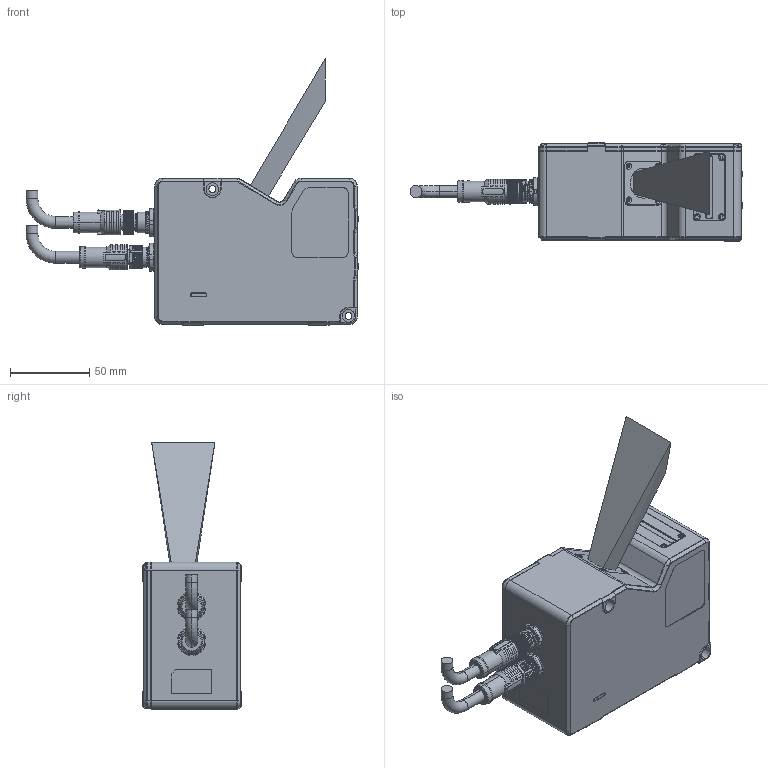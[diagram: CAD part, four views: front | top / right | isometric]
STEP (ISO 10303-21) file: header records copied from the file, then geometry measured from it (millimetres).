
FILE_DESCRIPTION((''),'2;1');
FILE_NAME('PRT0013','2026-05-20T18:18:30',('wangjiayi28'),(''),'CREO PARAMETRIC BY PTC INC, 2020044','CREO PARAMETRIC BY PTC INC, 2020044','');
FILE_SCHEMA(('AUTOMOTIVE_DESIGN { 1 0 10303 214 1 1 1 1 }'));
Products named in the file (1): PRT0013
Bounding box: 209.75 x 62 x 168.5 mm (x, y, z)
Volume: 3672.3 mm3; surface area: 80781.8 mm2
Topology: 2 solids, 57 shells, 2062 faces, 6015 edges, 3952 vertices
Faces by surface type: plane 957, cylinder 617, cone 249, torus 121, bspline 116, extrusion 2
Entity records: 110956 total; most frequent: CARTESIAN_POINT 58331, ORIENTED_EDGE 10828, DIRECTION 10596, EDGE_CURVE 5983, VERTEX_POINT 3952, AXIS2_PLACEMENT_3D 3934, VECTOR 2728, LINE 2726
